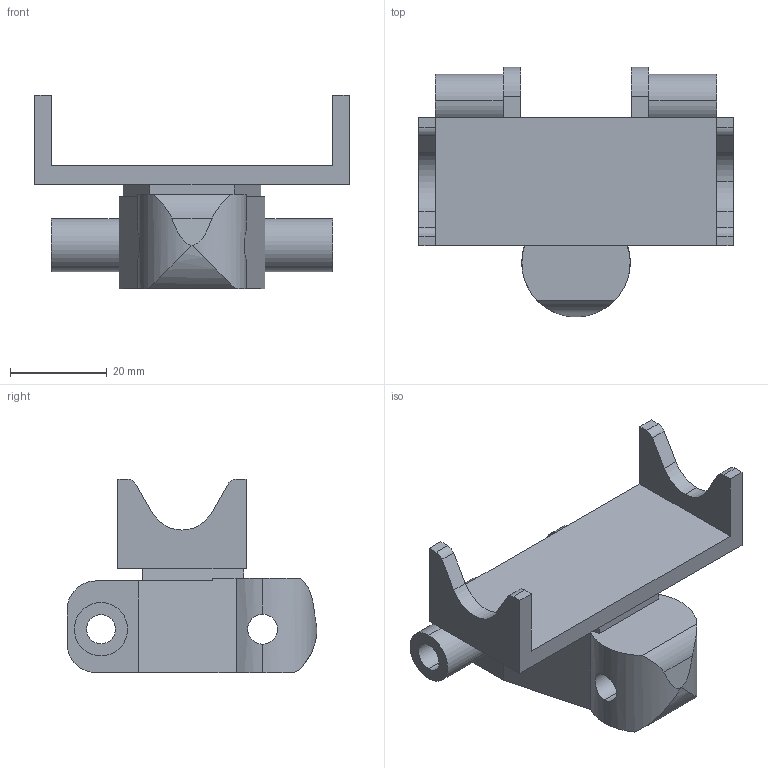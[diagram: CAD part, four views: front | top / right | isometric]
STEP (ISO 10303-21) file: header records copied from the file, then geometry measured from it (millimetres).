
FILE_DESCRIPTION (( 'STEP AP214' ), '1' );
FILE_NAME ('FMB14 5.step', '2017-04-04T13:34:19', ( '' ), ( '' ), 'SwSTEP 2.0', 'SolidWorks 2015', '' );
FILE_SCHEMA (( 'AUTOMOTIVE_DESIGN' ));
Length unit declared in the file: millimetre
Products named in the file (1): FMB14 5
Bounding box: 65 x 51.65 x 40 mm (x, y, z)
Volume: 25356.3 mm3; surface area: 12284.6 mm2
Topology: 1 solids, 1 shells, 71 faces, 198 edges, 131 vertices
Faces by surface type: plane 45, cylinder 26
Entity records: 2456 total; most frequent: CARTESIAN_POINT 563, ORIENTED_EDGE 396, DIRECTION 376, EDGE_CURVE 198, LINE 144, VECTOR 144, VERTEX_POINT 131, AXIS2_PLACEMENT_3D 116
